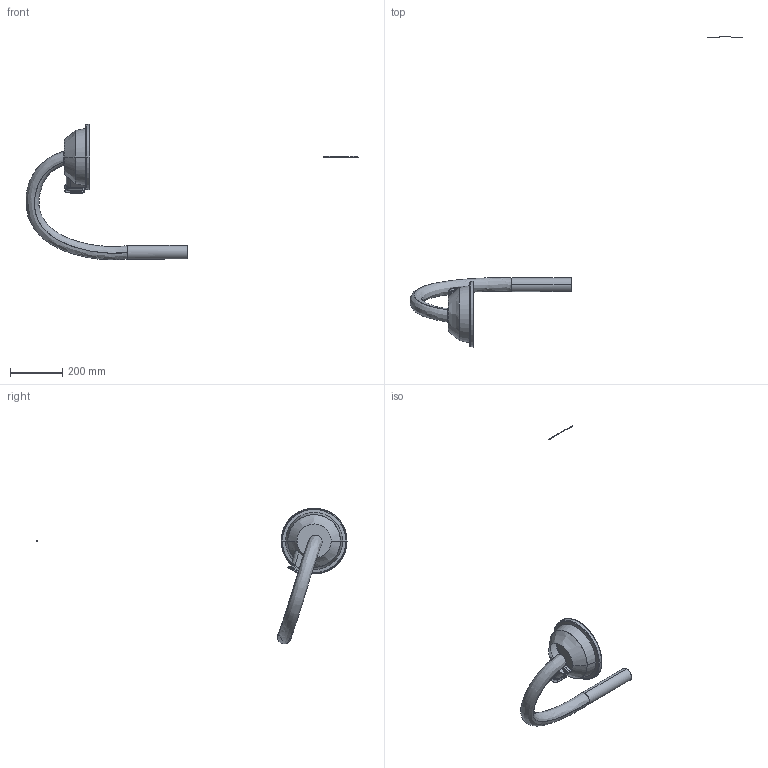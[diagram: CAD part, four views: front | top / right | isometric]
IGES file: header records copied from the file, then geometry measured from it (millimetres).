
Start section: SolidWorks IGES file using analytic representation for surfaces
Global section: file name: C:\DATA\SAP_DOC\LW\IRB 6720\IRB6720-MH3_210kg-280_OC_01_SW_J\export\IRB6720-MH3_210kg-280_OC_01_IGES_J\IRB6720-MH3_210kg-280_OC_00_LINK03b_CABLE.igs; native system: SolidWorks 2024; preprocessor: SolidWorks 2024; author: SEJOVAS3; date: 260526.103204; units: millimetre
Bounding box: 1266.33 x 1182.88 x 518.23 mm (x, y, z)
Surface area: 289326.8 mm2 (no closed solid volume)
Topology: 0 solids, 0 shells, 107 faces, 1203 edges, 1203 vertices
Faces by surface type: bspline 65, revolution 42
